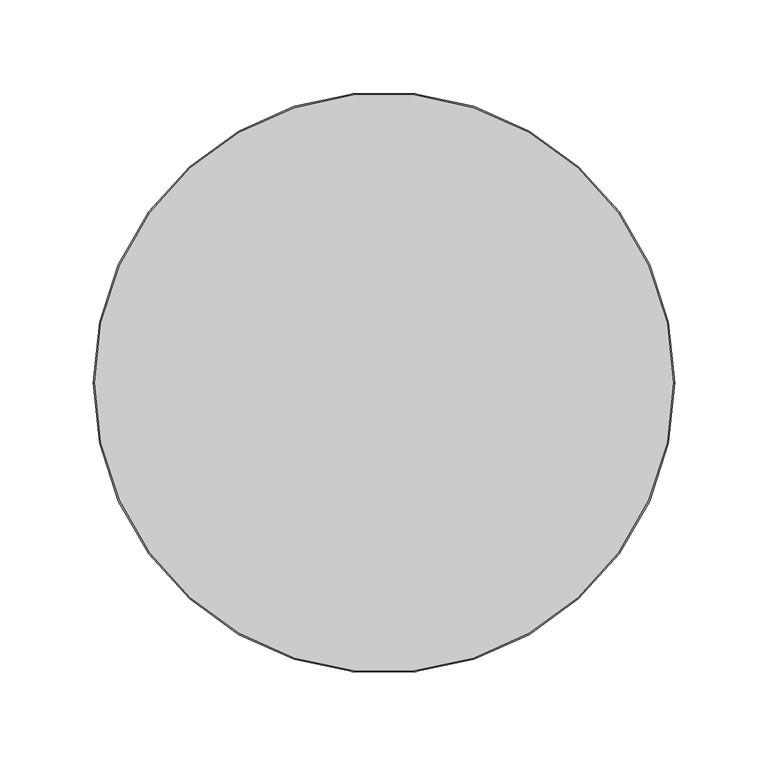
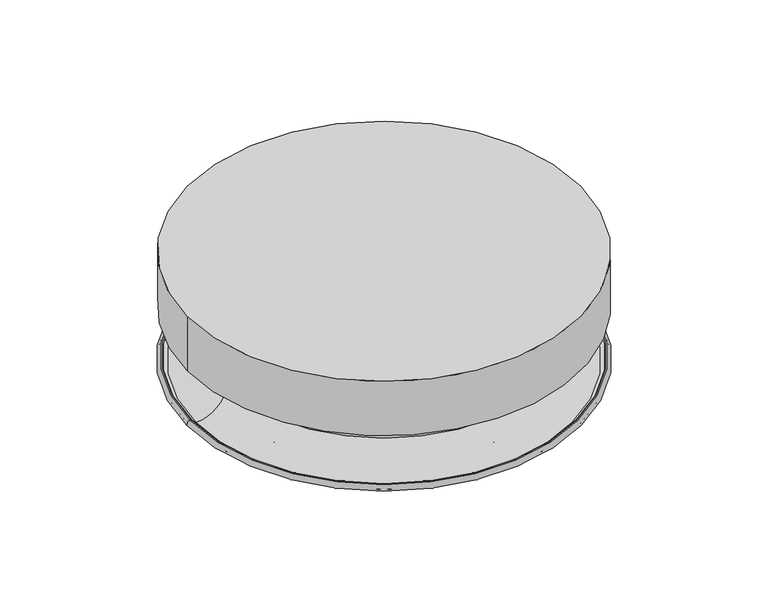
"""IFC4 building model written with IfcOpenShell, lengths in millimetres: air terminal geometry, AI_Bouche aération_Circulaire Reprise : ø315 mm."""

from ifc_helpers import new_model, si_unit, point, frame, origin, origin_2d, place, context, project, spatial, circle_curve, ellipse_curve, trimmed, segment, composite_curve, outline, extrude, source, transform, mapped, element, save
from ifc_brep_helpers import plane_surface, revolved_surface, advanced_brep


def air_terminal_7619dcd8(model_context):
    return source(origin(), model_context, "Body", "SolidModel", [
        extrude(outline(composite_curve([segment(trimmed(circle_curve(origin_2d(), 155.0), [point((155.0, 0.0))], [point((-155.0, 0.0))], False, "CARTESIAN"), True, "CONTINUOUS"), segment(trimmed(circle_curve(origin_2d(), 155.0), [point((-155.0, 0.0))], [point((155.0, 0.0))], False, "CARTESIAN"), True, "CONTINUOUS")], self_intersect=False)), frame((0.0, 0.0, 41.2), z_axis=(0.0, 0.0, 1.0), x_axis=(1.0, 0.0, 0.0)), (0.0, 0.0, 1.0), 45.4),
        advanced_brep(
        [(-122.4021074, 0.0, 20.3), (122.4021074, 0.0, 20.3), (124.6975243, 0.0, 18.1451243), (-124.6975243, 0.0, 18.1451243), (-120.0, 0.0, 20.3), (120.0, 0.0, 20.3), (-120.0, 0.0, 19.0), (120.0, 0.0, 19.0), (-122.4021074, 0.0, 19.0), (122.4021074, 0.0, 19.0), (-123.4001147, 0.0, 18.0630975), (123.4001147, 0.0, 18.0630975), (-148.5, 0.0, -5.5), (148.5, 0.0, -5.5), (-153.27, 0.0, -5.5), (153.27, 0.0, -5.5), (-153.27, 0.0, -0.7), (153.27, 0.0, -0.7), (-152.27, 0.0, -0.7), (152.27, 0.0, -0.7), (-152.27, 0.0, -2.0), (152.27, 0.0, -2.0), (-153.27, 0.0, -2.0), (153.27, 0.0, -2.0), (-153.27, 0.0, -4.2), (153.27, 0.0, -4.2), (-148.5, 0.0, -4.2), (148.5, 0.0, -4.2)],
        [
            (0, 1, circle_curve(frame((0.0, 0.0, 20.3), z_axis=(0.0, 0.0, -1.0), x_axis=(1.0, 0.0, 0.0)), 122.4021074)),
            (1, 2, circle_curve(frame((122.4021074, 0.0, 18.0), z_axis=(0.0, 1.0, 0.0), x_axis=(1.0, 0.0, 0.0)), 2.3)),
            (2, 3, circle_curve(frame((0.0, 0.0, 18.1451243), z_axis=(0.0, 0.0, 1.0), x_axis=(1.0, 0.0, 0.0)), 124.6975243)),
            (3, 0, circle_curve(frame((-122.4021074, 0.0, 18.0), z_axis=(0.0, 1.0, 0.0), x_axis=(-1.0, 0.0, 0.0)), 2.3)),
            (1, 0, circle_curve(frame((0.0, 0.0, 20.3), z_axis=(0.0, 0.0, -1.0), x_axis=(1.0, 0.0, 0.0)), 122.4021074)),
            (3, 2, circle_curve(frame((0.0, 0.0, 18.1451243), z_axis=(0.0, 0.0, 1.0), x_axis=(1.0, 0.0, 0.0)), 124.6975243)),
            (4, 5, circle_curve(frame((0.0, 0.0, 20.3), z_axis=(0.0, 0.0, -1.0), x_axis=(1.0, 0.0, 0.0)), 120.0)),
            (5, 1),
            (0, 4),
            (5, 4, circle_curve(frame((0.0, 0.0, 20.3), z_axis=(0.0, 0.0, -1.0), x_axis=(1.0, 0.0, 0.0)), 120.0)),
            (6, 7, circle_curve(frame((0.0, 0.0, 19.0), z_axis=(0.0, 0.0, -1.0), x_axis=(1.0, 0.0, 0.0)), 120.0)),
            (7, 5, circle_curve(frame((120.0, 0.0, 19.65), z_axis=(0.0, 1.0, 0.0), x_axis=(1.0, 0.0, 0.0)), 0.65)),
            (4, 6, circle_curve(frame((-120.0, 0.0, 19.65), z_axis=(0.0, 1.0, 0.0), x_axis=(-1.0, 0.0, 0.0)), 0.65)),
            (7, 6, circle_curve(frame((0.0, 0.0, 19.0), z_axis=(0.0, 0.0, -1.0), x_axis=(1.0, 0.0, 0.0)), 120.0)),
            (8, 9, circle_curve(frame((0.0, 0.0, 19.0), z_axis=(0.0, 0.0, -1.0), x_axis=(1.0, 0.0, 0.0)), 122.4021074)),
            (9, 7),
            (6, 8),
            (9, 8, circle_curve(frame((0.0, 0.0, 19.0), z_axis=(0.0, 0.0, -1.0), x_axis=(1.0, 0.0, 0.0)), 122.4021074)),
            (10, 11, circle_curve(frame((0.0, 0.0, 18.0630975), z_axis=(0.0, 0.0, -1.0), x_axis=(1.0, 0.0, 0.0)), 123.4001147)),
            (11, 9, circle_curve(frame((122.4021074, 0.0, 18.0), z_axis=(0.0, -1.0, 0.0), x_axis=(1.0, 0.0, 0.0)), 1.0)),
            (8, 10, circle_curve(frame((-122.4021074, 0.0, 18.0), z_axis=(0.0, -1.0, 0.0), x_axis=(-1.0, 0.0, 0.0)), 1.0)),
            (11, 10, circle_curve(frame((0.0, 0.0, 18.0630975), z_axis=(0.0, 0.0, -1.0), x_axis=(1.0, 0.0, 0.0)), 123.4001147)),
            (12, 13, circle_curve(frame((0.0, 0.0, -5.5), z_axis=(0.0, 0.0, -1.0), x_axis=(1.0, 0.0, 0.0)), 148.5)),
            (13, 11, circle_curve(frame((148.5, 0.0, 19.65), z_axis=(0.0, 1.0, 0.0), x_axis=(1.0, 0.0, 0.0)), 25.15)),
            (10, 12, circle_curve(frame((-148.5, 0.0, 19.65), z_axis=(0.0, 1.0, 0.0), x_axis=(-1.0, 0.0, 0.0)), 25.15)),
            (13, 12, circle_curve(frame((0.0, 0.0, -5.5), z_axis=(0.0, 0.0, -1.0), x_axis=(1.0, 0.0, 0.0)), 148.5)),
            (14, 15, circle_curve(frame((0.0, 0.0, -5.5), z_axis=(0.0, 0.0, -1.0), x_axis=(1.0, 0.0, 0.0)), 153.27)),
            (15, 13),
            (12, 14),
            (15, 14, circle_curve(frame((0.0, 0.0, -5.5), z_axis=(0.0, 0.0, -1.0), x_axis=(1.0, 0.0, 0.0)), 153.27)),
            (16, 17, circle_curve(frame((0.0, 0.0, -0.7), z_axis=(0.0, 0.0, -1.0), x_axis=(1.0, 0.0, 0.0)), 153.27)),
            (17, 15, circle_curve(frame((153.27, 0.0, -3.1), z_axis=(0.0, 1.0, 0.0), x_axis=(1.0, 0.0, 0.0)), 2.4)),
            (14, 16, circle_curve(frame((-153.27, 0.0, -3.1), z_axis=(0.0, 1.0, 0.0), x_axis=(-1.0, 0.0, 0.0)), 2.4)),
            (17, 16, circle_curve(frame((0.0, 0.0, -0.7), z_axis=(0.0, 0.0, -1.0), x_axis=(1.0, 0.0, 0.0)), 153.27)),
            (18, 19, circle_curve(frame((0.0, 0.0, -0.7), z_axis=(0.0, 0.0, -1.0), x_axis=(1.0, 0.0, 0.0)), 152.27)),
            (19, 17),
            (16, 18),
            (19, 18, circle_curve(frame((0.0, 0.0, -0.7), z_axis=(0.0, 0.0, -1.0), x_axis=(1.0, 0.0, 0.0)), 152.27)),
            (20, 21, circle_curve(frame((0.0, 0.0, -2.0), z_axis=(0.0, 0.0, -1.0), x_axis=(1.0, 0.0, 0.0)), 152.27)),
            (21, 19, circle_curve(frame((152.27, 0.0, -1.35), z_axis=(0.0, 1.0, 0.0), x_axis=(1.0, 0.0, 0.0)), 0.65)),
            (18, 20, circle_curve(frame((-152.27, 0.0, -1.35), z_axis=(0.0, 1.0, 0.0), x_axis=(-1.0, 0.0, 0.0)), 0.65)),
            (21, 20, circle_curve(frame((0.0, 0.0, -2.0), z_axis=(0.0, 0.0, -1.0), x_axis=(1.0, 0.0, 0.0)), 152.27)),
            (22, 23, circle_curve(frame((0.0, 0.0, -2.0), z_axis=(0.0, 0.0, -1.0), x_axis=(1.0, 0.0, 0.0)), 153.27)),
            (23, 21),
            (20, 22),
            (23, 22, circle_curve(frame((0.0, 0.0, -2.0), z_axis=(0.0, 0.0, -1.0), x_axis=(1.0, 0.0, 0.0)), 153.27)),
            (24, 25, circle_curve(frame((0.0, 0.0, -4.2), z_axis=(0.0, 0.0, -1.0), x_axis=(1.0, 0.0, 0.0)), 153.27)),
            (25, 23, circle_curve(frame((153.27, 0.0, -3.1), z_axis=(0.0, -1.0, 0.0), x_axis=(1.0, 0.0, 0.0)), 1.1)),
            (22, 24, circle_curve(frame((-153.27, 0.0, -3.1), z_axis=(0.0, -1.0, 0.0), x_axis=(-1.0, 0.0, 0.0)), 1.1)),
            (25, 24, circle_curve(frame((0.0, 0.0, -4.2), z_axis=(0.0, 0.0, -1.0), x_axis=(1.0, 0.0, 0.0)), 153.27)),
            (26, 27, circle_curve(frame((0.0, 0.0, -4.2), z_axis=(0.0, 0.0, -1.0), x_axis=(1.0, 0.0, 0.0)), 148.5)),
            (27, 25),
            (24, 26),
            (27, 26, circle_curve(frame((0.0, 0.0, -4.2), z_axis=(0.0, 0.0, -1.0), x_axis=(1.0, 0.0, 0.0)), 148.5)),
            (2, 27, circle_curve(frame((148.5, 0.0, 19.65), z_axis=(0.0, -1.0, 0.0), x_axis=(1.0, 0.0, 0.0)), 23.85)),
            (26, 3, circle_curve(frame((-148.5, 0.0, 19.65), z_axis=(0.0, -1.0, 0.0), x_axis=(-1.0, 0.0, 0.0)), 23.85)),
        ],
        [
            revolved_surface(trimmed(ellipse_curve(frame((122.4021074, 0.0, 18.0), z_axis=(0.0, -1.0, 0.0), x_axis=(1.0, 0.0, 0.0)), 2.3, 2.3), [point((124.6975243, 0.0, 18.1451243))], [point((122.4021074, 0.0, 20.3))], True, "CARTESIAN"), (0.0, 0.0, 1789.7688894), (0.0, 0.0, 1.0)),
            plane_surface(frame((0.0, 0.0, 20.3), z_axis=(0.0, 0.0, 1.0), x_axis=(1.0, 0.0, 0.0))),
            revolved_surface(trimmed(ellipse_curve(frame((120.0, 0.0, 19.65), z_axis=(0.0, -1.0, 0.0), x_axis=(1.0, 0.0, 0.0)), 0.65, 0.65), [point((120.0, 0.0, 20.3))], [point((120.0, 0.0, 19.0))], True, "CARTESIAN"), (0.0, 0.0, 1789.7688894), (0.0, 0.0, 1.0)),
            plane_surface(frame((0.0, 0.0, 19.0), z_axis=(0.0, 0.0, -1.0), x_axis=(1.0, 0.0, 0.0))),
            revolved_surface(trimmed(ellipse_curve(frame((122.4021074, 0.0, 18.0), z_axis=(0.0, 1.0, 0.0), x_axis=(1.0, 0.0, 0.0)), 1.0, 1.0), [point((122.4021074, 0.0, 19.0))], [point((123.4001147, 0.0, 18.0630975))], True, "CARTESIAN"), (0.0, 0.0, 1789.7688894), (0.0, 0.0, 1.0)),
            revolved_surface(trimmed(ellipse_curve(frame((148.5, 0.0, 19.65), z_axis=(0.0, -1.0, 0.0), x_axis=(1.0, 0.0, 0.0)), 25.15, 25.15), [point((123.4001147, 0.0, 18.0630975))], [point((148.5, 0.0, -5.5))], True, "CARTESIAN"), (0.0, 0.0, 1789.7688894), (0.0, 0.0, 1.0)),
            plane_surface(frame((0.0, 0.0, -5.5), z_axis=(0.0, 0.0, -1.0), x_axis=(1.0, 0.0, 0.0))),
            revolved_surface(trimmed(ellipse_curve(frame((153.27, 0.0, -3.1), z_axis=(0.0, -1.0, 0.0), x_axis=(1.0, 0.0, 0.0)), 2.4, 2.4), [point((153.27, 0.0, -5.5))], [point((153.27, 0.0, -0.7))], True, "CARTESIAN"), (0.0, 0.0, 1789.7688894), (0.0, 0.0, 1.0)),
            plane_surface(frame((0.0, 0.0, -0.7), z_axis=(0.0, 0.0, 1.0), x_axis=(1.0, 0.0, 0.0))),
            revolved_surface(trimmed(ellipse_curve(frame((152.27, 0.0, -1.35), z_axis=(0.0, -1.0, 0.0), x_axis=(1.0, 0.0, 0.0)), 0.65, 0.65), [point((152.27, 0.0, -0.7))], [point((152.27, 0.0, -2.0))], True, "CARTESIAN"), (0.0, 0.0, 1789.7688894), (0.0, 0.0, 1.0)),
            plane_surface(frame((0.0, 0.0, -2.0), z_axis=(0.0, 0.0, -1.0), x_axis=(1.0, 0.0, 0.0))),
            revolved_surface(trimmed(ellipse_curve(frame((153.27, 0.0, -3.1), z_axis=(0.0, 1.0, 0.0), x_axis=(1.0, 0.0, 0.0)), 1.1, 1.1), [point((153.27, 0.0, -2.0))], [point((153.27, 0.0, -4.2))], True, "CARTESIAN"), (0.0, 0.0, 1789.7688894), (0.0, 0.0, 1.0)),
            plane_surface(frame((0.0, 0.0, -4.2), z_axis=(0.0, 0.0, 1.0), x_axis=(1.0, 0.0, 0.0))),
            revolved_surface(trimmed(ellipse_curve(frame((148.5, 0.0, 19.65), z_axis=(0.0, 1.0, 0.0), x_axis=(1.0, 0.0, 0.0)), 23.85, 23.85), [point((148.5, 0.0, -4.2))], [point((124.6975243, 0.0, 18.1451243))], True, "CARTESIAN"), (0.0, 0.0, 1789.7688894), (0.0, 0.0, 1.0)),
        ],
        [
            (0, [[1, 2, 3, 4]]),
            (0, [[5, -4, 6, -2]]),
            (1, [[7, 8, -1, 9]]),
            (1, [[10, -9, -5, -8]]),
            (2, [[11, 12, -7, 13]]),
            (2, [[14, -13, -10, -12]]),
            (3, [[15, 16, -11, 17]]),
            (3, [[18, -17, -14, -16]]),
            (4, [[19, 20, -15, 21]]),
            (4, [[22, -21, -18, -20]]),
            (5, [[23, 24, -19, 25]]),
            (5, [[26, -25, -22, -24]]),
            (6, [[27, 28, -23, 29]]),
            (6, [[30, -29, -26, -28]]),
            (7, [[31, 32, -27, 33]]),
            (7, [[34, -33, -30, -32]]),
            (8, [[35, 36, -31, 37]]),
            (8, [[38, -37, -34, -36]]),
            (9, [[39, 40, -35, 41]]),
            (9, [[42, -41, -38, -40]]),
            (10, [[43, 44, -39, 45]]),
            (10, [[46, -45, -42, -44]]),
            (11, [[47, 48, -43, 49]]),
            (11, [[50, -49, -46, -48]]),
            (12, [[51, 52, -47, 53]]),
            (12, [[54, -53, -50, -52]]),
            (13, [[-3, 55, -51, 56]]),
            (13, [[-6, -56, -54, -55]]),
        ],
    ),
        advanced_brep(
        [(-97.4021074, 0.0, 20.3), (97.4021074, 0.0, 20.3), (99.6975243, 0.0, 18.1451243), (-99.6975243, 0.0, 18.1451243), (-95.0, 0.0, 20.3), (95.0, 0.0, 20.3), (-95.0, 0.0, 19.0), (95.0, 0.0, 19.0), (-97.4021074, 0.0, 19.0), (97.4021074, 0.0, 19.0), (-98.4001147, 0.0, 18.0630975), (98.4001147, 0.0, 18.0630975), (-123.5, 0.0, -5.5), (123.5, 0.0, -5.5), (-128.27, 0.0, -5.5), (128.27, 0.0, -5.5), (-128.27, 0.0, -0.7), (128.27, 0.0, -0.7), (-127.27, 0.0, -0.7), (127.27, 0.0, -0.7), (-127.27, 0.0, -2.0), (127.27, 0.0, -2.0), (-128.27, 0.0, -2.0), (128.27, 0.0, -2.0), (-128.27, 0.0, -4.2), (128.27, 0.0, -4.2), (-123.5, 0.0, -4.2), (123.5, 0.0, -4.2)],
        [
            (0, 1, circle_curve(frame((0.0, 0.0, 20.3), z_axis=(0.0, 0.0, -1.0), x_axis=(1.0, 0.0, 0.0)), 97.4021074)),
            (1, 2, circle_curve(frame((97.4021074, 0.0, 18.0), z_axis=(0.0, 1.0, 0.0), x_axis=(1.0, 0.0, 0.0)), 2.3)),
            (2, 3, circle_curve(frame((0.0, 0.0, 18.1451243), z_axis=(0.0, 0.0, 1.0), x_axis=(1.0, 0.0, 0.0)), 99.6975243)),
            (3, 0, circle_curve(frame((-97.4021074, 0.0, 18.0), z_axis=(0.0, 1.0, 0.0), x_axis=(-1.0, 0.0, 0.0)), 2.3)),
            (1, 0, circle_curve(frame((0.0, 0.0, 20.3), z_axis=(0.0, 0.0, -1.0), x_axis=(1.0, 0.0, 0.0)), 97.4021074)),
            (3, 2, circle_curve(frame((0.0, 0.0, 18.1451243), z_axis=(0.0, 0.0, 1.0), x_axis=(1.0, 0.0, 0.0)), 99.6975243)),
            (4, 5, circle_curve(frame((0.0, 0.0, 20.3), z_axis=(0.0, 0.0, -1.0), x_axis=(1.0, 0.0, 0.0)), 95.0)),
            (5, 1),
            (0, 4),
            (5, 4, circle_curve(frame((0.0, 0.0, 20.3), z_axis=(0.0, 0.0, -1.0), x_axis=(1.0, 0.0, 0.0)), 95.0)),
            (6, 7, circle_curve(frame((0.0, 0.0, 19.0), z_axis=(0.0, 0.0, -1.0), x_axis=(1.0, 0.0, 0.0)), 95.0)),
            (7, 5, circle_curve(frame((95.0, 0.0, 19.65), z_axis=(0.0, 1.0, 0.0), x_axis=(1.0, 0.0, 0.0)), 0.65)),
            (4, 6, circle_curve(frame((-95.0, 0.0, 19.65), z_axis=(0.0, 1.0, 0.0), x_axis=(-1.0, 0.0, 0.0)), 0.65)),
            (7, 6, circle_curve(frame((0.0, 0.0, 19.0), z_axis=(0.0, 0.0, -1.0), x_axis=(1.0, 0.0, 0.0)), 95.0)),
            (8, 9, circle_curve(frame((0.0, 0.0, 19.0), z_axis=(0.0, 0.0, -1.0), x_axis=(1.0, 0.0, 0.0)), 97.4021074)),
            (9, 7),
            (6, 8),
            (9, 8, circle_curve(frame((0.0, 0.0, 19.0), z_axis=(0.0, 0.0, -1.0), x_axis=(1.0, 0.0, 0.0)), 97.4021074)),
            (10, 11, circle_curve(frame((0.0, 0.0, 18.0630975), z_axis=(0.0, 0.0, -1.0), x_axis=(1.0, 0.0, 0.0)), 98.4001147)),
            (11, 9, circle_curve(frame((97.4021074, 0.0, 18.0), z_axis=(0.0, -1.0, 0.0), x_axis=(1.0, 0.0, 0.0)), 1.0)),
            (8, 10, circle_curve(frame((-97.4021074, 0.0, 18.0), z_axis=(0.0, -1.0, 0.0), x_axis=(-1.0, 0.0, 0.0)), 1.0)),
            (11, 10, circle_curve(frame((0.0, 0.0, 18.0630975), z_axis=(0.0, 0.0, -1.0), x_axis=(1.0, 0.0, 0.0)), 98.4001147)),
            (12, 13, circle_curve(frame((0.0, 0.0, -5.5), z_axis=(0.0, 0.0, -1.0), x_axis=(1.0, 0.0, 0.0)), 123.5)),
            (13, 11, circle_curve(frame((123.5, 0.0, 19.65), z_axis=(0.0, 1.0, 0.0), x_axis=(1.0, 0.0, 0.0)), 25.15)),
            (10, 12, circle_curve(frame((-123.5, 0.0, 19.65), z_axis=(0.0, 1.0, 0.0), x_axis=(-1.0, 0.0, 0.0)), 25.15)),
            (13, 12, circle_curve(frame((0.0, 0.0, -5.5), z_axis=(0.0, 0.0, -1.0), x_axis=(1.0, 0.0, 0.0)), 123.5)),
            (14, 15, circle_curve(frame((0.0, 0.0, -5.5), z_axis=(0.0, 0.0, -1.0), x_axis=(1.0, 0.0, 0.0)), 128.27)),
            (15, 13),
            (12, 14),
            (15, 14, circle_curve(frame((0.0, 0.0, -5.5), z_axis=(0.0, 0.0, -1.0), x_axis=(1.0, 0.0, 0.0)), 128.27)),
            (16, 17, circle_curve(frame((0.0, 0.0, -0.7), z_axis=(0.0, 0.0, -1.0), x_axis=(1.0, 0.0, 0.0)), 128.27)),
            (17, 15, circle_curve(frame((128.27, 0.0, -3.1), z_axis=(0.0, 1.0, 0.0), x_axis=(1.0, 0.0, 0.0)), 2.4)),
            (14, 16, circle_curve(frame((-128.27, 0.0, -3.1), z_axis=(0.0, 1.0, 0.0), x_axis=(-1.0, 0.0, 0.0)), 2.4)),
            (17, 16, circle_curve(frame((0.0, 0.0, -0.7), z_axis=(0.0, 0.0, -1.0), x_axis=(1.0, 0.0, 0.0)), 128.27)),
            (18, 19, circle_curve(frame((0.0, 0.0, -0.7), z_axis=(0.0, 0.0, -1.0), x_axis=(1.0, 0.0, 0.0)), 127.27)),
            (19, 17),
            (16, 18),
            (19, 18, circle_curve(frame((0.0, 0.0, -0.7), z_axis=(0.0, 0.0, -1.0), x_axis=(1.0, 0.0, 0.0)), 127.27)),
            (20, 21, circle_curve(frame((0.0, 0.0, -2.0), z_axis=(0.0, 0.0, -1.0), x_axis=(1.0, 0.0, 0.0)), 127.27)),
            (21, 19, circle_curve(frame((127.27, 0.0, -1.35), z_axis=(0.0, 1.0, 0.0), x_axis=(1.0, 0.0, 0.0)), 0.65)),
            (18, 20, circle_curve(frame((-127.27, 0.0, -1.35), z_axis=(0.0, 1.0, 0.0), x_axis=(-1.0, 0.0, 0.0)), 0.65)),
            (21, 20, circle_curve(frame((0.0, 0.0, -2.0), z_axis=(0.0, 0.0, -1.0), x_axis=(1.0, 0.0, 0.0)), 127.27)),
            (22, 23, circle_curve(frame((0.0, 0.0, -2.0), z_axis=(0.0, 0.0, -1.0), x_axis=(1.0, 0.0, 0.0)), 128.27)),
            (23, 21),
            (20, 22),
            (23, 22, circle_curve(frame((0.0, 0.0, -2.0), z_axis=(0.0, 0.0, -1.0), x_axis=(1.0, 0.0, 0.0)), 128.27)),
            (24, 25, circle_curve(frame((0.0, 0.0, -4.2), z_axis=(0.0, 0.0, -1.0), x_axis=(1.0, 0.0, 0.0)), 128.27)),
            (25, 23, circle_curve(frame((128.27, 0.0, -3.1), z_axis=(0.0, -1.0, 0.0), x_axis=(1.0, 0.0, 0.0)), 1.1)),
            (22, 24, circle_curve(frame((-128.27, 0.0, -3.1), z_axis=(0.0, -1.0, 0.0), x_axis=(-1.0, 0.0, 0.0)), 1.1)),
            (25, 24, circle_curve(frame((0.0, 0.0, -4.2), z_axis=(0.0, 0.0, -1.0), x_axis=(1.0, 0.0, 0.0)), 128.27)),
            (26, 27, circle_curve(frame((0.0, 0.0, -4.2), z_axis=(0.0, 0.0, -1.0), x_axis=(1.0, 0.0, 0.0)), 123.5)),
            (27, 25),
            (24, 26),
            (27, 26, circle_curve(frame((0.0, 0.0, -4.2), z_axis=(0.0, 0.0, -1.0), x_axis=(1.0, 0.0, 0.0)), 123.5)),
            (2, 27, circle_curve(frame((123.5, 0.0, 19.65), z_axis=(0.0, -1.0, 0.0), x_axis=(1.0, 0.0, 0.0)), 23.85)),
            (26, 3, circle_curve(frame((-123.5, 0.0, 19.65), z_axis=(0.0, -1.0, 0.0), x_axis=(-1.0, 0.0, 0.0)), 23.85)),
        ],
        [
            revolved_surface(trimmed(ellipse_curve(frame((97.4021074, 0.0, 18.0), z_axis=(0.0, -1.0, 0.0), x_axis=(1.0, 0.0, 0.0)), 2.3, 2.3), [point((99.6975243, 0.0, 18.1451243))], [point((97.4021074, 0.0, 20.3))], True, "CARTESIAN"), (0.0, 0.0, 1789.7688894), (0.0, 0.0, 1.0)),
            plane_surface(frame((0.0, 0.0, 20.3), z_axis=(0.0, 0.0, 1.0), x_axis=(1.0, 0.0, 0.0))),
            revolved_surface(trimmed(ellipse_curve(frame((95.0, 0.0, 19.65), z_axis=(0.0, -1.0, 0.0), x_axis=(1.0, 0.0, 0.0)), 0.65, 0.65), [point((95.0, 0.0, 20.3))], [point((95.0, 0.0, 19.0))], True, "CARTESIAN"), (0.0, 0.0, 1789.7688894), (0.0, 0.0, 1.0)),
            plane_surface(frame((0.0, 0.0, 19.0), z_axis=(0.0, 0.0, -1.0), x_axis=(1.0, 0.0, 0.0))),
            revolved_surface(trimmed(ellipse_curve(frame((97.4021074, 0.0, 18.0), z_axis=(0.0, 1.0, 0.0), x_axis=(1.0, 0.0, 0.0)), 1.0, 1.0), [point((97.4021074, 0.0, 19.0))], [point((98.4001147, 0.0, 18.0630975))], True, "CARTESIAN"), (0.0, 0.0, 1789.7688894), (0.0, 0.0, 1.0)),
            revolved_surface(trimmed(ellipse_curve(frame((123.5, 0.0, 19.65), z_axis=(0.0, -1.0, 0.0), x_axis=(1.0, 0.0, 0.0)), 25.15, 25.15), [point((98.4001147, 0.0, 18.0630975))], [point((123.5, 0.0, -5.5))], True, "CARTESIAN"), (0.0, 0.0, 1789.7688894), (0.0, 0.0, 1.0)),
            plane_surface(frame((0.0, 0.0, -5.5), z_axis=(0.0, 0.0, -1.0), x_axis=(1.0, 0.0, 0.0))),
            revolved_surface(trimmed(ellipse_curve(frame((128.27, 0.0, -3.1), z_axis=(0.0, -1.0, 0.0), x_axis=(1.0, 0.0, 0.0)), 2.4, 2.4), [point((128.27, 0.0, -5.5))], [point((128.27, 0.0, -0.7))], True, "CARTESIAN"), (0.0, 0.0, 1789.7688894), (0.0, 0.0, 1.0)),
            plane_surface(frame((0.0, 0.0, -0.7), z_axis=(0.0, 0.0, 1.0), x_axis=(1.0, 0.0, 0.0))),
            revolved_surface(trimmed(ellipse_curve(frame((127.27, 0.0, -1.35), z_axis=(0.0, -1.0, 0.0), x_axis=(1.0, 0.0, 0.0)), 0.65, 0.65), [point((127.27, 0.0, -0.7))], [point((127.27, 0.0, -2.0))], True, "CARTESIAN"), (0.0, 0.0, 1789.7688894), (0.0, 0.0, 1.0)),
            plane_surface(frame((0.0, 0.0, -2.0), z_axis=(0.0, 0.0, -1.0), x_axis=(1.0, 0.0, 0.0))),
            revolved_surface(trimmed(ellipse_curve(frame((128.27, 0.0, -3.1), z_axis=(0.0, 1.0, 0.0), x_axis=(1.0, 0.0, 0.0)), 1.1, 1.1), [point((128.27, 0.0, -2.0))], [point((128.27, 0.0, -4.2))], True, "CARTESIAN"), (0.0, 0.0, 1789.7688894), (0.0, 0.0, 1.0)),
            plane_surface(frame((0.0, 0.0, -4.2), z_axis=(0.0, 0.0, 1.0), x_axis=(1.0, 0.0, 0.0))),
            revolved_surface(trimmed(ellipse_curve(frame((123.5, 0.0, 19.65), z_axis=(0.0, 1.0, 0.0), x_axis=(1.0, 0.0, 0.0)), 23.85, 23.85), [point((123.5, 0.0, -4.2))], [point((99.6975243, 0.0, 18.1451243))], True, "CARTESIAN"), (0.0, 0.0, 1789.7688894), (0.0, 0.0, 1.0)),
        ],
        [
            (0, [[1, 2, 3, 4]]),
            (0, [[5, -4, 6, -2]]),
            (1, [[7, 8, -1, 9]]),
            (1, [[10, -9, -5, -8]]),
            (2, [[11, 12, -7, 13]]),
            (2, [[14, -13, -10, -12]]),
            (3, [[15, 16, -11, 17]]),
            (3, [[18, -17, -14, -16]]),
            (4, [[19, 20, -15, 21]]),
            (4, [[22, -21, -18, -20]]),
            (5, [[23, 24, -19, 25]]),
            (5, [[26, -25, -22, -24]]),
            (6, [[27, 28, -23, 29]]),
            (6, [[30, -29, -26, -28]]),
            (7, [[31, 32, -27, 33]]),
            (7, [[34, -33, -30, -32]]),
            (8, [[35, 36, -31, 37]]),
            (8, [[38, -37, -34, -36]]),
            (9, [[39, 40, -35, 41]]),
            (9, [[42, -41, -38, -40]]),
            (10, [[43, 44, -39, 45]]),
            (10, [[46, -45, -42, -44]]),
            (11, [[47, 48, -43, 49]]),
            (11, [[50, -49, -46, -48]]),
            (12, [[51, 52, -47, 53]]),
            (12, [[54, -53, -50, -52]]),
            (13, [[-3, 55, -51, 56]]),
            (13, [[-6, -56, -54, -55]]),
        ],
    ),
        advanced_brep(
        [(-72.4021074, 0.0, 20.3), (72.4021074, 0.0, 20.3), (74.6975243, 0.0, 18.1451243), (-74.6975243, 0.0, 18.1451243), (-70.0, 0.0, 20.3), (70.0, 0.0, 20.3), (-70.0, 0.0, 19.0), (70.0, 0.0, 19.0), (-72.4021074, 0.0, 19.0), (72.4021074, 0.0, 19.0), (-73.4001147, 0.0, 18.0630975), (73.4001147, 0.0, 18.0630975), (-98.5, 0.0, -5.5), (98.5, 0.0, -5.5), (-103.27, 0.0, -5.5), (103.27, 0.0, -5.5), (-103.27, 0.0, -0.7), (103.27, 0.0, -0.7), (-102.27, 0.0, -0.7), (102.27, 0.0, -0.7), (-102.27, 0.0, -2.0), (102.27, 0.0, -2.0), (-103.27, 0.0, -2.0), (103.27, 0.0, -2.0), (-103.27, 0.0, -4.2), (103.27, 0.0, -4.2), (-98.5, 0.0, -4.2), (98.5, 0.0, -4.2)],
        [
            (0, 1, circle_curve(frame((0.0, 0.0, 20.3), z_axis=(0.0, 0.0, -1.0), x_axis=(1.0, 0.0, 0.0)), 72.4021074)),
            (1, 2, circle_curve(frame((72.4021074, 0.0, 18.0), z_axis=(0.0, 1.0, 0.0), x_axis=(1.0, 0.0, 0.0)), 2.3)),
            (2, 3, circle_curve(frame((0.0, 0.0, 18.1451243), z_axis=(0.0, 0.0, 1.0), x_axis=(1.0, 0.0, 0.0)), 74.6975243)),
            (3, 0, circle_curve(frame((-72.4021074, 0.0, 18.0), z_axis=(0.0, 1.0, 0.0), x_axis=(-1.0, 0.0, 0.0)), 2.3)),
            (1, 0, circle_curve(frame((0.0, 0.0, 20.3), z_axis=(0.0, 0.0, -1.0), x_axis=(1.0, 0.0, 0.0)), 72.4021074)),
            (3, 2, circle_curve(frame((0.0, 0.0, 18.1451243), z_axis=(0.0, 0.0, 1.0), x_axis=(1.0, 0.0, 0.0)), 74.6975243)),
            (4, 5, circle_curve(frame((0.0, 0.0, 20.3), z_axis=(0.0, 0.0, -1.0), x_axis=(1.0, 0.0, 0.0)), 70.0)),
            (5, 1),
            (0, 4),
            (5, 4, circle_curve(frame((0.0, 0.0, 20.3), z_axis=(0.0, 0.0, -1.0), x_axis=(1.0, 0.0, 0.0)), 70.0)),
            (6, 7, circle_curve(frame((0.0, 0.0, 19.0), z_axis=(0.0, 0.0, -1.0), x_axis=(1.0, 0.0, 0.0)), 70.0)),
            (7, 5, circle_curve(frame((70.0, 0.0, 19.65), z_axis=(0.0, 1.0, 0.0), x_axis=(1.0, 0.0, 0.0)), 0.65)),
            (4, 6, circle_curve(frame((-70.0, 0.0, 19.65), z_axis=(0.0, 1.0, 0.0), x_axis=(-1.0, 0.0, 0.0)), 0.65)),
            (7, 6, circle_curve(frame((0.0, 0.0, 19.0), z_axis=(0.0, 0.0, -1.0), x_axis=(1.0, 0.0, 0.0)), 70.0)),
            (8, 9, circle_curve(frame((0.0, 0.0, 19.0), z_axis=(0.0, 0.0, -1.0), x_axis=(1.0, 0.0, 0.0)), 72.4021074)),
            (9, 7),
            (6, 8),
            (9, 8, circle_curve(frame((0.0, 0.0, 19.0), z_axis=(0.0, 0.0, -1.0), x_axis=(1.0, 0.0, 0.0)), 72.4021074)),
            (10, 11, circle_curve(frame((0.0, 0.0, 18.0630975), z_axis=(0.0, 0.0, -1.0), x_axis=(1.0, 0.0, 0.0)), 73.4001147)),
            (11, 9, circle_curve(frame((72.4021074, 0.0, 18.0), z_axis=(0.0, -1.0, 0.0), x_axis=(1.0, 0.0, 0.0)), 1.0)),
            (8, 10, circle_curve(frame((-72.4021074, 0.0, 18.0), z_axis=(0.0, -1.0, 0.0), x_axis=(-1.0, 0.0, 0.0)), 1.0)),
            (11, 10, circle_curve(frame((0.0, 0.0, 18.0630975), z_axis=(0.0, 0.0, -1.0), x_axis=(1.0, 0.0, 0.0)), 73.4001147)),
            (12, 13, circle_curve(frame((0.0, 0.0, -5.5), z_axis=(0.0, 0.0, -1.0), x_axis=(1.0, 0.0, 0.0)), 98.5)),
            (13, 11, circle_curve(frame((98.5, 0.0, 19.65), z_axis=(0.0, 1.0, 0.0), x_axis=(1.0, 0.0, 0.0)), 25.15)),
            (10, 12, circle_curve(frame((-98.5, 0.0, 19.65), z_axis=(0.0, 1.0, 0.0), x_axis=(-1.0, 0.0, 0.0)), 25.15)),
            (13, 12, circle_curve(frame((0.0, 0.0, -5.5), z_axis=(0.0, 0.0, -1.0), x_axis=(1.0, 0.0, 0.0)), 98.5)),
            (14, 15, circle_curve(frame((0.0, 0.0, -5.5), z_axis=(0.0, 0.0, -1.0), x_axis=(1.0, 0.0, 0.0)), 103.27)),
            (15, 13),
            (12, 14),
            (15, 14, circle_curve(frame((0.0, 0.0, -5.5), z_axis=(0.0, 0.0, -1.0), x_axis=(1.0, 0.0, 0.0)), 103.27)),
            (16, 17, circle_curve(frame((0.0, 0.0, -0.7), z_axis=(0.0, 0.0, -1.0), x_axis=(1.0, 0.0, 0.0)), 103.27)),
            (17, 15, circle_curve(frame((103.27, 0.0, -3.1), z_axis=(0.0, 1.0, 0.0), x_axis=(1.0, 0.0, 0.0)), 2.4)),
            (14, 16, circle_curve(frame((-103.27, 0.0, -3.1), z_axis=(0.0, 1.0, 0.0), x_axis=(-1.0, 0.0, 0.0)), 2.4)),
            (17, 16, circle_curve(frame((0.0, 0.0, -0.7), z_axis=(0.0, 0.0, -1.0), x_axis=(1.0, 0.0, 0.0)), 103.27)),
            (18, 19, circle_curve(frame((0.0, 0.0, -0.7), z_axis=(0.0, 0.0, -1.0), x_axis=(1.0, 0.0, 0.0)), 102.27)),
            (19, 17),
            (16, 18),
            (19, 18, circle_curve(frame((0.0, 0.0, -0.7), z_axis=(0.0, 0.0, -1.0), x_axis=(1.0, 0.0, 0.0)), 102.27)),
            (20, 21, circle_curve(frame((0.0, 0.0, -2.0), z_axis=(0.0, 0.0, -1.0), x_axis=(1.0, 0.0, 0.0)), 102.27)),
            (21, 19, circle_curve(frame((102.27, 0.0, -1.35), z_axis=(0.0, 1.0, 0.0), x_axis=(1.0, 0.0, 0.0)), 0.65)),
            (18, 20, circle_curve(frame((-102.27, 0.0, -1.35), z_axis=(0.0, 1.0, 0.0), x_axis=(-1.0, 0.0, 0.0)), 0.65)),
            (21, 20, circle_curve(frame((0.0, 0.0, -2.0), z_axis=(0.0, 0.0, -1.0), x_axis=(1.0, 0.0, 0.0)), 102.27)),
            (22, 23, circle_curve(frame((0.0, 0.0, -2.0), z_axis=(0.0, 0.0, -1.0), x_axis=(1.0, 0.0, 0.0)), 103.27)),
            (23, 21),
            (20, 22),
            (23, 22, circle_curve(frame((0.0, 0.0, -2.0), z_axis=(0.0, 0.0, -1.0), x_axis=(1.0, 0.0, 0.0)), 103.27)),
            (24, 25, circle_curve(frame((0.0, 0.0, -4.2), z_axis=(0.0, 0.0, -1.0), x_axis=(1.0, 0.0, 0.0)), 103.27)),
            (25, 23, circle_curve(frame((103.27, 0.0, -3.1), z_axis=(0.0, -1.0, 0.0), x_axis=(1.0, 0.0, 0.0)), 1.1)),
            (22, 24, circle_curve(frame((-103.27, 0.0, -3.1), z_axis=(0.0, -1.0, 0.0), x_axis=(-1.0, 0.0, 0.0)), 1.1)),
            (25, 24, circle_curve(frame((0.0, 0.0, -4.2), z_axis=(0.0, 0.0, -1.0), x_axis=(1.0, 0.0, 0.0)), 103.27)),
            (26, 27, circle_curve(frame((0.0, 0.0, -4.2), z_axis=(0.0, 0.0, -1.0), x_axis=(1.0, 0.0, 0.0)), 98.5)),
            (27, 25),
            (24, 26),
            (27, 26, circle_curve(frame((0.0, 0.0, -4.2), z_axis=(0.0, 0.0, -1.0), x_axis=(1.0, 0.0, 0.0)), 98.5)),
            (2, 27, circle_curve(frame((98.5, 0.0, 19.65), z_axis=(0.0, -1.0, 0.0), x_axis=(1.0, 0.0, 0.0)), 23.85)),
            (26, 3, circle_curve(frame((-98.5, 0.0, 19.65), z_axis=(0.0, -1.0, 0.0), x_axis=(-1.0, 0.0, 0.0)), 23.85)),
        ],
        [
            revolved_surface(trimmed(ellipse_curve(frame((72.4021074, 0.0, 18.0), z_axis=(0.0, -1.0, 0.0), x_axis=(1.0, 0.0, 0.0)), 2.3, 2.3), [point((74.6975243, 0.0, 18.1451243))], [point((72.4021074, 0.0, 20.3))], True, "CARTESIAN"), (0.0, 0.0, 1789.7688894), (0.0, 0.0, 1.0)),
            plane_surface(frame((0.0, 0.0, 20.3), z_axis=(0.0, 0.0, 1.0), x_axis=(1.0, 0.0, 0.0))),
            revolved_surface(trimmed(ellipse_curve(frame((70.0, 0.0, 19.65), z_axis=(0.0, -1.0, 0.0), x_axis=(1.0, 0.0, 0.0)), 0.65, 0.65), [point((70.0, 0.0, 20.3))], [point((70.0, 0.0, 19.0))], True, "CARTESIAN"), (0.0, 0.0, 1789.7688894), (0.0, 0.0, 1.0)),
            plane_surface(frame((0.0, 0.0, 19.0), z_axis=(0.0, 0.0, -1.0), x_axis=(1.0, 0.0, 0.0))),
            revolved_surface(trimmed(ellipse_curve(frame((72.4021074, 0.0, 18.0), z_axis=(0.0, 1.0, 0.0), x_axis=(1.0, 0.0, 0.0)), 1.0, 1.0), [point((72.4021074, 0.0, 19.0))], [point((73.4001147, 0.0, 18.0630975))], True, "CARTESIAN"), (0.0, 0.0, 1789.7688894), (0.0, 0.0, 1.0)),
            revolved_surface(trimmed(ellipse_curve(frame((98.5, 0.0, 19.65), z_axis=(0.0, -1.0, 0.0), x_axis=(1.0, 0.0, 0.0)), 25.15, 25.15), [point((73.4001147, 0.0, 18.0630975))], [point((98.5, 0.0, -5.5))], True, "CARTESIAN"), (0.0, 0.0, 1789.7688894), (0.0, 0.0, 1.0)),
            plane_surface(frame((0.0, 0.0, -5.5), z_axis=(0.0, 0.0, -1.0), x_axis=(1.0, 0.0, 0.0))),
            revolved_surface(trimmed(ellipse_curve(frame((103.27, 0.0, -3.1), z_axis=(0.0, -1.0, 0.0), x_axis=(1.0, 0.0, 0.0)), 2.4, 2.4), [point((103.27, 0.0, -5.5))], [point((103.27, 0.0, -0.7))], True, "CARTESIAN"), (0.0, 0.0, 1789.7688894), (0.0, 0.0, 1.0)),
            plane_surface(frame((0.0, 0.0, -0.7), z_axis=(0.0, 0.0, 1.0), x_axis=(1.0, 0.0, 0.0))),
            revolved_surface(trimmed(ellipse_curve(frame((102.27, 0.0, -1.35), z_axis=(0.0, -1.0, 0.0), x_axis=(1.0, 0.0, 0.0)), 0.65, 0.65), [point((102.27, 0.0, -0.7))], [point((102.27, 0.0, -2.0))], True, "CARTESIAN"), (0.0, 0.0, 1789.7688894), (0.0, 0.0, 1.0)),
            plane_surface(frame((0.0, 0.0, -2.0), z_axis=(0.0, 0.0, -1.0), x_axis=(1.0, 0.0, 0.0))),
            revolved_surface(trimmed(ellipse_curve(frame((103.27, 0.0, -3.1), z_axis=(0.0, 1.0, 0.0), x_axis=(1.0, 0.0, 0.0)), 1.1, 1.1), [point((103.27, 0.0, -2.0))], [point((103.27, 0.0, -4.2))], True, "CARTESIAN"), (0.0, 0.0, 1789.7688894), (0.0, 0.0, 1.0)),
            plane_surface(frame((0.0, 0.0, -4.2), z_axis=(0.0, 0.0, 1.0), x_axis=(1.0, 0.0, 0.0))),
            revolved_surface(trimmed(ellipse_curve(frame((98.5, 0.0, 19.65), z_axis=(0.0, 1.0, 0.0), x_axis=(1.0, 0.0, 0.0)), 23.85, 23.85), [point((98.5, 0.0, -4.2))], [point((74.6975243, 0.0, 18.1451243))], True, "CARTESIAN"), (0.0, 0.0, 1789.7688894), (0.0, 0.0, 1.0)),
        ],
        [
            (0, [[1, 2, 3, 4]]),
            (0, [[5, -4, 6, -2]]),
            (1, [[7, 8, -1, 9]]),
            (1, [[10, -9, -5, -8]]),
            (2, [[11, 12, -7, 13]]),
            (2, [[14, -13, -10, -12]]),
            (3, [[15, 16, -11, 17]]),
            (3, [[18, -17, -14, -16]]),
            (4, [[19, 20, -15, 21]]),
            (4, [[22, -21, -18, -20]]),
            (5, [[23, 24, -19, 25]]),
            (5, [[26, -25, -22, -24]]),
            (6, [[27, 28, -23, 29]]),
            (6, [[30, -29, -26, -28]]),
            (7, [[31, 32, -27, 33]]),
            (7, [[34, -33, -30, -32]]),
            (8, [[35, 36, -31, 37]]),
            (8, [[38, -37, -34, -36]]),
            (9, [[39, 40, -35, 41]]),
            (9, [[42, -41, -38, -40]]),
            (10, [[43, 44, -39, 45]]),
            (10, [[46, -45, -42, -44]]),
            (11, [[47, 48, -43, 49]]),
            (11, [[50, -49, -46, -48]]),
            (12, [[51, 52, -47, 53]]),
            (12, [[54, -53, -50, -52]]),
            (13, [[-3, 55, -51, 56]]),
            (13, [[-6, -56, -54, -55]]),
        ],
    ),
        advanced_brep(
        [(-42.4021074, 0.0, 20.3), (42.4021074, 0.0, 20.3), (44.6975243, 0.0, 18.1451243), (-44.6975243, 0.0, 18.1451243), (-40.0, 0.0, 20.3), (40.0, 0.0, 20.3), (-40.0, 0.0, 19.0), (40.0, 0.0, 19.0), (-42.4021074, 0.0, 19.0), (42.4021074, 0.0, 19.0), (-43.4001147, 0.0, 18.0630975), (43.4001147, 0.0, 18.0630975), (-68.5, 0.0, -5.5), (68.5, 0.0, -5.5), (-73.27, 0.0, -5.5), (73.27, 0.0, -5.5), (-73.27, 0.0, -0.7), (73.27, 0.0, -0.7), (-72.27, 0.0, -0.7), (72.27, 0.0, -0.7), (-72.27, 0.0, -2.0), (72.27, 0.0, -2.0), (-73.27, 0.0, -2.0), (73.27, 0.0, -2.0), (-73.27, 0.0, -4.2), (73.27, 0.0, -4.2), (-68.5, 0.0, -4.2), (68.5, 0.0, -4.2)],
        [
            (0, 1, circle_curve(frame((0.0, 0.0, 20.3), z_axis=(0.0, 0.0, -1.0), x_axis=(1.0, 0.0, 0.0)), 42.4021074)),
            (1, 2, circle_curve(frame((42.4021074, 0.0, 18.0), z_axis=(0.0, 1.0, 0.0), x_axis=(1.0, 0.0, 0.0)), 2.3)),
            (2, 3, circle_curve(frame((0.0, 0.0, 18.1451243), z_axis=(0.0, 0.0, 1.0), x_axis=(1.0, 0.0, 0.0)), 44.6975243)),
            (3, 0, circle_curve(frame((-42.4021074, 0.0, 18.0), z_axis=(0.0, 1.0, 0.0), x_axis=(-1.0, 0.0, 0.0)), 2.3)),
            (1, 0, circle_curve(frame((0.0, 0.0, 20.3), z_axis=(0.0, 0.0, -1.0), x_axis=(1.0, 0.0, 0.0)), 42.4021074)),
            (3, 2, circle_curve(frame((0.0, 0.0, 18.1451243), z_axis=(0.0, 0.0, 1.0), x_axis=(1.0, 0.0, 0.0)), 44.6975243)),
            (4, 5, circle_curve(frame((0.0, 0.0, 20.3), z_axis=(0.0, 0.0, -1.0), x_axis=(1.0, 0.0, 0.0)), 40.0)),
            (5, 1),
            (0, 4),
            (5, 4, circle_curve(frame((0.0, 0.0, 20.3), z_axis=(0.0, 0.0, -1.0), x_axis=(1.0, 0.0, 0.0)), 40.0)),
            (6, 7, circle_curve(frame((0.0, 0.0, 19.0), z_axis=(0.0, 0.0, -1.0), x_axis=(1.0, 0.0, 0.0)), 40.0)),
            (7, 5, circle_curve(frame((40.0, 0.0, 19.65), z_axis=(0.0, 1.0, 0.0), x_axis=(1.0, 0.0, 0.0)), 0.65)),
            (4, 6, circle_curve(frame((-40.0, 0.0, 19.65), z_axis=(0.0, 1.0, 0.0), x_axis=(-1.0, 0.0, 0.0)), 0.65)),
            (7, 6, circle_curve(frame((0.0, 0.0, 19.0), z_axis=(0.0, 0.0, -1.0), x_axis=(1.0, 0.0, 0.0)), 40.0)),
            (8, 9, circle_curve(frame((0.0, 0.0, 19.0), z_axis=(0.0, 0.0, -1.0), x_axis=(1.0, 0.0, 0.0)), 42.4021074)),
            (9, 7),
            (6, 8),
            (9, 8, circle_curve(frame((0.0, 0.0, 19.0), z_axis=(0.0, 0.0, -1.0), x_axis=(1.0, 0.0, 0.0)), 42.4021074)),
            (10, 11, circle_curve(frame((0.0, 0.0, 18.0630975), z_axis=(0.0, 0.0, -1.0), x_axis=(1.0, 0.0, 0.0)), 43.4001147)),
            (11, 9, circle_curve(frame((42.4021074, 0.0, 18.0), z_axis=(0.0, -1.0, 0.0), x_axis=(1.0, 0.0, 0.0)), 1.0)),
            (8, 10, circle_curve(frame((-42.4021074, 0.0, 18.0), z_axis=(0.0, -1.0, 0.0), x_axis=(-1.0, 0.0, 0.0)), 1.0)),
            (11, 10, circle_curve(frame((0.0, 0.0, 18.0630975), z_axis=(0.0, 0.0, -1.0), x_axis=(1.0, 0.0, 0.0)), 43.4001147)),
            (12, 13, circle_curve(frame((0.0, 0.0, -5.5), z_axis=(0.0, 0.0, -1.0), x_axis=(1.0, 0.0, 0.0)), 68.5)),
            (13, 11, circle_curve(frame((68.5, 0.0, 19.65), z_axis=(0.0, 1.0, 0.0), x_axis=(1.0, 0.0, 0.0)), 25.15)),
            (10, 12, circle_curve(frame((-68.5, 0.0, 19.65), z_axis=(0.0, 1.0, 0.0), x_axis=(-1.0, 0.0, 0.0)), 25.15)),
            (13, 12, circle_curve(frame((0.0, 0.0, -5.5), z_axis=(0.0, 0.0, -1.0), x_axis=(1.0, 0.0, 0.0)), 68.5)),
            (14, 15, circle_curve(frame((0.0, 0.0, -5.5), z_axis=(0.0, 0.0, -1.0), x_axis=(1.0, 0.0, 0.0)), 73.27)),
            (15, 13),
            (12, 14),
            (15, 14, circle_curve(frame((0.0, 0.0, -5.5), z_axis=(0.0, 0.0, -1.0), x_axis=(1.0, 0.0, 0.0)), 73.27)),
            (16, 17, circle_curve(frame((0.0, 0.0, -0.7), z_axis=(0.0, 0.0, -1.0), x_axis=(1.0, 0.0, 0.0)), 73.27)),
            (17, 15, circle_curve(frame((73.27, 0.0, -3.1), z_axis=(0.0, 1.0, 0.0), x_axis=(1.0, 0.0, 0.0)), 2.4)),
            (14, 16, circle_curve(frame((-73.27, 0.0, -3.1), z_axis=(0.0, 1.0, 0.0), x_axis=(-1.0, 0.0, 0.0)), 2.4)),
            (17, 16, circle_curve(frame((0.0, 0.0, -0.7), z_axis=(0.0, 0.0, -1.0), x_axis=(1.0, 0.0, 0.0)), 73.27)),
            (18, 19, circle_curve(frame((0.0, 0.0, -0.7), z_axis=(0.0, 0.0, -1.0), x_axis=(1.0, 0.0, 0.0)), 72.27)),
            (19, 17),
            (16, 18),
            (19, 18, circle_curve(frame((0.0, 0.0, -0.7), z_axis=(0.0, 0.0, -1.0), x_axis=(1.0, 0.0, 0.0)), 72.27)),
            (20, 21, circle_curve(frame((0.0, 0.0, -2.0), z_axis=(0.0, 0.0, -1.0), x_axis=(1.0, 0.0, 0.0)), 72.27)),
            (21, 19, circle_curve(frame((72.27, 0.0, -1.35), z_axis=(0.0, 1.0, 0.0), x_axis=(1.0, 0.0, 0.0)), 0.65)),
            (18, 20, circle_curve(frame((-72.27, 0.0, -1.35), z_axis=(0.0, 1.0, 0.0), x_axis=(-1.0, 0.0, 0.0)), 0.65)),
            (21, 20, circle_curve(frame((0.0, 0.0, -2.0), z_axis=(0.0, 0.0, -1.0), x_axis=(1.0, 0.0, 0.0)), 72.27)),
            (22, 23, circle_curve(frame((0.0, 0.0, -2.0), z_axis=(0.0, 0.0, -1.0), x_axis=(1.0, 0.0, 0.0)), 73.27)),
            (23, 21),
            (20, 22),
            (23, 22, circle_curve(frame((0.0, 0.0, -2.0), z_axis=(0.0, 0.0, -1.0), x_axis=(1.0, 0.0, 0.0)), 73.27)),
            (24, 25, circle_curve(frame((0.0, 0.0, -4.2), z_axis=(0.0, 0.0, -1.0), x_axis=(1.0, 0.0, 0.0)), 73.27)),
            (25, 23, circle_curve(frame((73.27, 0.0, -3.1), z_axis=(0.0, -1.0, 0.0), x_axis=(1.0, 0.0, 0.0)), 1.1)),
            (22, 24, circle_curve(frame((-73.27, 0.0, -3.1), z_axis=(0.0, -1.0, 0.0), x_axis=(-1.0, 0.0, 0.0)), 1.1)),
            (25, 24, circle_curve(frame((0.0, 0.0, -4.2), z_axis=(0.0, 0.0, -1.0), x_axis=(1.0, 0.0, 0.0)), 73.27)),
            (26, 27, circle_curve(frame((0.0, 0.0, -4.2), z_axis=(0.0, 0.0, -1.0), x_axis=(1.0, 0.0, 0.0)), 68.5)),
            (27, 25),
            (24, 26),
            (27, 26, circle_curve(frame((0.0, 0.0, -4.2), z_axis=(0.0, 0.0, -1.0), x_axis=(1.0, 0.0, 0.0)), 68.5)),
            (2, 27, circle_curve(frame((68.5, 0.0, 19.65), z_axis=(0.0, -1.0, 0.0), x_axis=(1.0, 0.0, 0.0)), 23.85)),
            (26, 3, circle_curve(frame((-68.5, 0.0, 19.65), z_axis=(0.0, -1.0, 0.0), x_axis=(-1.0, 0.0, 0.0)), 23.85)),
        ],
        [
            revolved_surface(trimmed(ellipse_curve(frame((42.4021074, 0.0, 18.0), z_axis=(0.0, -1.0, 0.0), x_axis=(1.0, 0.0, 0.0)), 2.3, 2.3), [point((44.6975243, 0.0, 18.1451243))], [point((42.4021074, 0.0, 20.3))], True, "CARTESIAN"), (0.0, 0.0, 1789.7688894), (0.0, 0.0, 1.0)),
            plane_surface(frame((0.0, 0.0, 20.3), z_axis=(0.0, 0.0, 1.0), x_axis=(1.0, 0.0, 0.0))),
            revolved_surface(trimmed(ellipse_curve(frame((40.0, 0.0, 19.65), z_axis=(0.0, -1.0, 0.0), x_axis=(1.0, 0.0, 0.0)), 0.65, 0.65), [point((40.0, 0.0, 20.3))], [point((40.0, 0.0, 19.0))], True, "CARTESIAN"), (0.0, 0.0, 1789.7688894), (0.0, 0.0, 1.0)),
            plane_surface(frame((0.0, 0.0, 19.0), z_axis=(0.0, 0.0, -1.0), x_axis=(1.0, 0.0, 0.0))),
            revolved_surface(trimmed(ellipse_curve(frame((42.4021074, 0.0, 18.0), z_axis=(0.0, 1.0, 0.0), x_axis=(1.0, 0.0, 0.0)), 1.0, 1.0), [point((42.4021074, 0.0, 19.0))], [point((43.4001147, 0.0, 18.0630975))], True, "CARTESIAN"), (0.0, 0.0, 1789.7688894), (0.0, 0.0, 1.0)),
            revolved_surface(trimmed(ellipse_curve(frame((68.5, 0.0, 19.65), z_axis=(0.0, -1.0, 0.0), x_axis=(1.0, 0.0, 0.0)), 25.15, 25.15), [point((43.4001147, 0.0, 18.0630975))], [point((68.5, 0.0, -5.5))], True, "CARTESIAN"), (0.0, 0.0, 1789.7688894), (0.0, 0.0, 1.0)),
            plane_surface(frame((0.0, 0.0, -5.5), z_axis=(0.0, 0.0, -1.0), x_axis=(1.0, 0.0, 0.0))),
            revolved_surface(trimmed(ellipse_curve(frame((73.27, 0.0, -3.1), z_axis=(0.0, -1.0, 0.0), x_axis=(1.0, 0.0, 0.0)), 2.4, 2.4), [point((73.27, 0.0, -5.5))], [point((73.27, 0.0, -0.7))], True, "CARTESIAN"), (0.0, 0.0, 1789.7688894), (0.0, 0.0, 1.0)),
            plane_surface(frame((0.0, 0.0, -0.7), z_axis=(0.0, 0.0, 1.0), x_axis=(1.0, 0.0, 0.0))),
            revolved_surface(trimmed(ellipse_curve(frame((72.27, 0.0, -1.35), z_axis=(0.0, -1.0, 0.0), x_axis=(1.0, 0.0, 0.0)), 0.65, 0.65), [point((72.27, 0.0, -0.7))], [point((72.27, 0.0, -2.0))], True, "CARTESIAN"), (0.0, 0.0, 1789.7688894), (0.0, 0.0, 1.0)),
            plane_surface(frame((0.0, 0.0, -2.0), z_axis=(0.0, 0.0, -1.0), x_axis=(1.0, 0.0, 0.0))),
            revolved_surface(trimmed(ellipse_curve(frame((73.27, 0.0, -3.1), z_axis=(0.0, 1.0, 0.0), x_axis=(1.0, 0.0, 0.0)), 1.1, 1.1), [point((73.27, 0.0, -2.0))], [point((73.27, 0.0, -4.2))], True, "CARTESIAN"), (0.0, 0.0, 1789.7688894), (0.0, 0.0, 1.0)),
            plane_surface(frame((0.0, 0.0, -4.2), z_axis=(0.0, 0.0, 1.0), x_axis=(1.0, 0.0, 0.0))),
            revolved_surface(trimmed(ellipse_curve(frame((68.5, 0.0, 19.65), z_axis=(0.0, 1.0, 0.0), x_axis=(1.0, 0.0, 0.0)), 23.85, 23.85), [point((68.5, 0.0, -4.2))], [point((44.6975243, 0.0, 18.1451243))], True, "CARTESIAN"), (0.0, 0.0, 1789.7688894), (0.0, 0.0, 1.0)),
        ],
        [
            (0, [[1, 2, 3, 4]]),
            (0, [[5, -4, 6, -2]]),
            (1, [[7, 8, -1, 9]]),
            (1, [[10, -9, -5, -8]]),
            (2, [[11, 12, -7, 13]]),
            (2, [[14, -13, -10, -12]]),
            (3, [[15, 16, -11, 17]]),
            (3, [[18, -17, -14, -16]]),
            (4, [[19, 20, -15, 21]]),
            (4, [[22, -21, -18, -20]]),
            (5, [[23, 24, -19, 25]]),
            (5, [[26, -25, -22, -24]]),
            (6, [[27, 28, -23, 29]]),
            (6, [[30, -29, -26, -28]]),
            (7, [[31, 32, -27, 33]]),
            (7, [[34, -33, -30, -32]]),
            (8, [[35, 36, -31, 37]]),
            (8, [[38, -37, -34, -36]]),
            (9, [[39, 40, -35, 41]]),
            (9, [[42, -41, -38, -40]]),
            (10, [[43, 44, -39, 45]]),
            (10, [[46, -45, -42, -44]]),
            (11, [[47, 48, -43, 49]]),
            (11, [[50, -49, -46, -48]]),
            (12, [[51, 52, -47, 53]]),
            (12, [[54, -53, -50, -52]]),
            (13, [[-3, 55, -51, 56]]),
            (13, [[-6, -56, -54, -55]]),
        ],
    ),
    ])


if __name__ == "__main__":
    model = new_model("IFC4")
    model_context = context("Model", 3, world=origin())
    ifc_project = project(units=[si_unit("LENGTHUNIT", "METRE", prefix="MILLI")], contexts=[model_context])
    site = spatial("IfcSite", under=ifc_project)
    building = spatial("IfcBuilding", under=site)
    placement = place(None, origin())
    air_terminal_shape = air_terminal_7619dcd8(model_context)
    element("IfcAirTerminal", 1, ObjectType="AI_Bouche aération_Circulaire Reprise : ø315 mm", at=placement, inside=building, context=model_context, shape_type="MappedRepresentation", body=[
        mapped(air_terminal_shape, transform((0.0, 0.0, 0.0), x_axis=(1.0, 0.0, 0.0), y_axis=(0.0, 1.0, 0.0), z_axis=(0.0, 0.0, 1.0))),
    ])
    save(model, "model.ifc")
